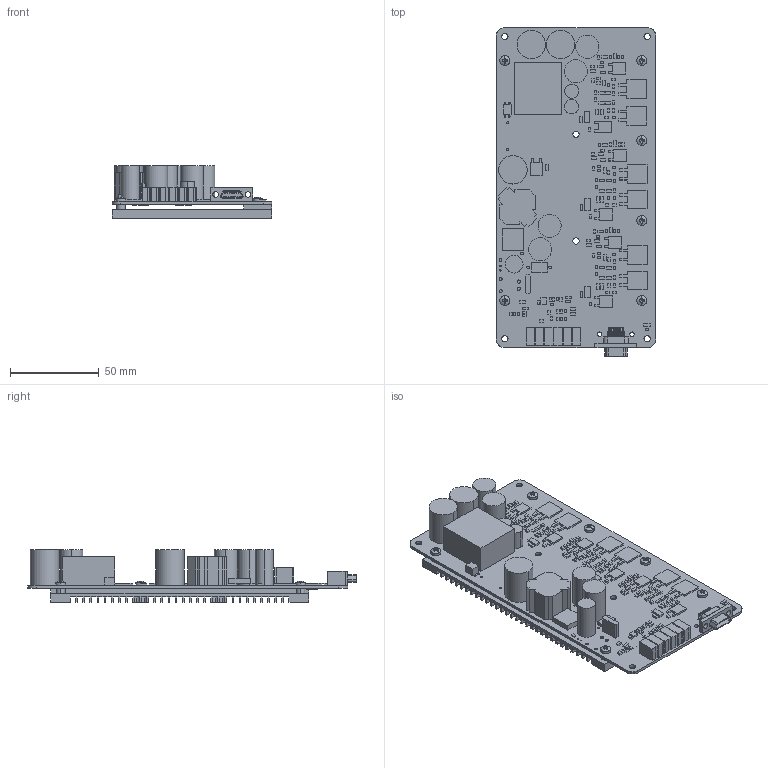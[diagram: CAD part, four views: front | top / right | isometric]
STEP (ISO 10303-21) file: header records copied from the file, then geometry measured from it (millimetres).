
FILE_DESCRIPTION (( 'STEP AP203' ), '1' );
FILE_NAME ('E80.A3K-H.STEP', '2025-07-15T05:22:32', ( 'China' ), ( 'Home' ), 'SwSTEP 2.0', 'SolidWorks 2016', '' );
FILE_SCHEMA (( 'CONFIG_CONTROL_DESIGN' ));
Length unit declared in the file: millimetre
Products named in the file (1): E80.A3K-H
Bounding box: 90 x 184.88 x 29.6 mm (x, y, z)
Surface area: 101464.9 mm2 (no closed solid volume)
Topology: 0 solids, 192 shells, 1454 faces, 4113 edges, 2821 vertices
Faces by surface type: plane 1199, cylinder 213, torus 30, sphere 12
Entity records: 46136 total; most frequent: CARTESIAN_POINT 8545, DIRECTION 7755, ORIENTED_EDGE 6837, EDGE_CURVE 4113, LINE 3325, VECTOR 3325, VERTEX_POINT 2821, AXIS2_PLACEMENT_3D 2215
